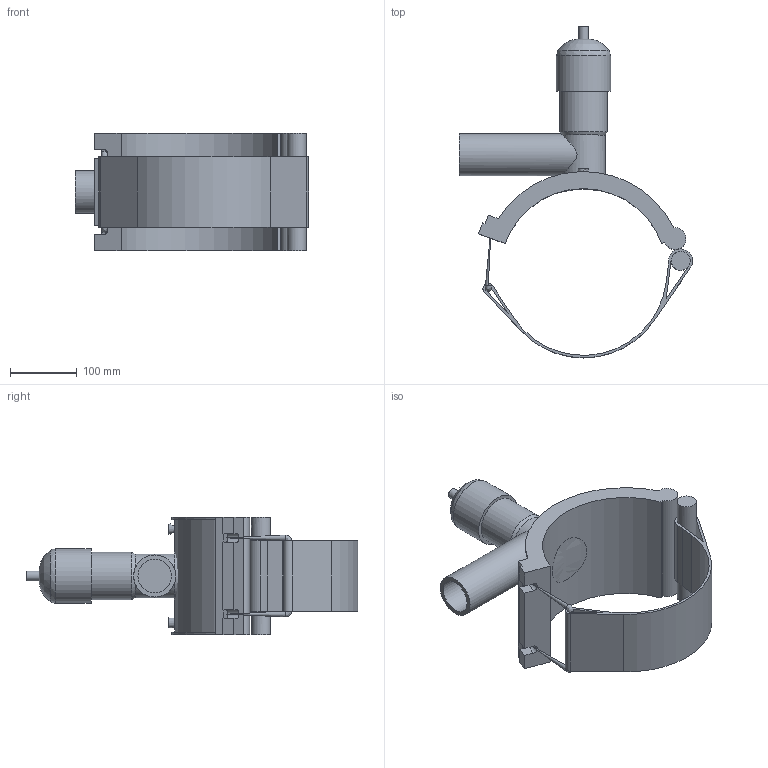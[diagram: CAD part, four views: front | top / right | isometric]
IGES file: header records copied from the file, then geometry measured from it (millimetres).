
Global section: file name: 495404250063.ipt; native system: Autodesk Inventor 2015; preprocessor: unknown; author: KIM; date: 20171106.094325; units: millimetre
Bounding box: 349.69 x 497.75 x 176 mm (x, y, z)
Volume: 2866695.3 mm3; surface area: 431883.7 mm2
Topology: 2 solids, 4 shells, 81 faces, 201 edges, 133 vertices
Faces by surface type: plane 45, cylinder 20, revolution 13, cone 3
Full cylindrical faces by diameter (mm): 4 x2, 8.5 x2, 14.64 x1, 28.462 x1, 63 x1, 70.76 x1, 73.2 x1, 81.333 x1
